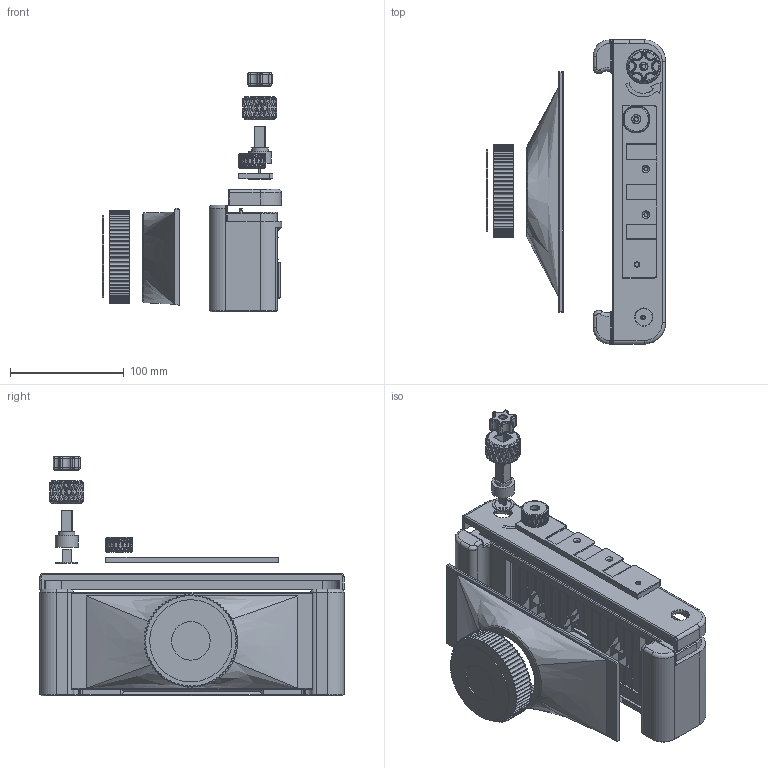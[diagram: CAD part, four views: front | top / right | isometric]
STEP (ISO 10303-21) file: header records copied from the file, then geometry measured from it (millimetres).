
FILE_DESCRIPTION(/* description */ (''),/* implementation_level */ '2;1');
FILE_NAME(/* name */ '6x17 v6 v2.step',/* time_stamp */ '2023-12-02T19:38:21+01:00',/* author */ (''),/* organization */ (''),/* preprocessor_version */ 'ST-DEVELOPER v20',/* originating_system */ 'Autodesk Translation Framework v12.14.0.127',/* authorisation */ '');
FILE_SCHEMA (('AUTOMOTIVE_DESIGN { 1 0 10303 214 3 1 1 }'));
Products named in the file (1): 6x17 v6
Bounding box: 157.38 x 267 x 210.51 mm (x, y, z)
Volume: 781917.7 mm3; surface area: 357327.8 mm2
Topology: 14 solids, 14 shells, 2483 faces, 6527 edges, 4116 vertices
Faces by surface type: plane 1461, cylinder 465, bspline 270, torus 170, cone 114, sphere 3
Full cylindrical faces by diameter (mm): 1 x28, 3.3 x2, 3.4 x1, 3.5 x3, 3.8 x3, 4 x2, 4.039 x3, 4.6 x1, 6.4 x1, 7.7 x1, 8.14 x4, 9.525 x4, 10 x1, 14 x1, 14.5 x1, 15 x2, 15.1 x1, 19.2 x1, 20 x1, 21.2 x2, 27.15 x2, 34 x1, 64.317 x4, 65.121 x4, 72.246 x1
Entity records: 90165 total; most frequent: CARTESIAN_POINT 30461, ORIENTED_EDGE 13028, DIRECTION 11592, EDGE_CURVE 6514, VERTEX_POINT 4116, LINE 3900, VECTOR 3900, AXIS2_PLACEMENT_3D 3846
